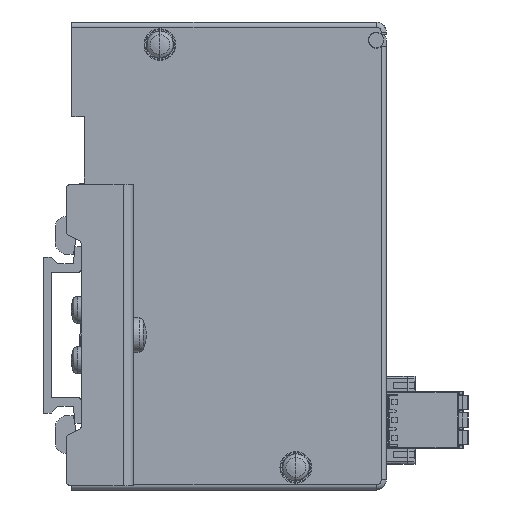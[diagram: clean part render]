
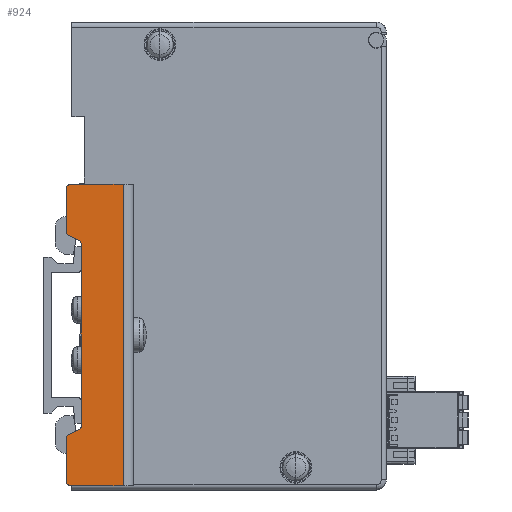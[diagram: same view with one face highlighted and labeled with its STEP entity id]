
A CAD part, left-side view. The second image highlights one B-rep face of the part: STEP entity #924.
In plain terms, the highlighted planar face has unit normal (-1, 0, 0).
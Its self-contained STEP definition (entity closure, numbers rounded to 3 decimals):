
#924=ADVANCED_FACE('',(#8789),#8788,.T.);
#8788=PLANE('',#14845);
#8789=FACE_OUTER_BOUND('',#14846,.T.);
#14842=CARTESIAN_POINT('',(-13.,-3.37,-36.));
#14843=DIRECTION('',(-1.,0.,0.));
#14844=DIRECTION('',(0.,-1.,0.));
#14845=AXIS2_PLACEMENT_3D('',#14842,#14843,#14844);
#14846=EDGE_LOOP('',(#19674,#19675,#19676,#19677,#19678,#19679,#19680,#19681,#19682,#19683,#19684,#19685,#19686,#19687));
#19674=ORIENTED_EDGE('',*,*,#22361,.F.);
#19675=ORIENTED_EDGE('',*,*,#22362,.T.);
#19676=ORIENTED_EDGE('',*,*,#22363,.T.);
#19677=ORIENTED_EDGE('',*,*,#22364,.T.);
#19678=ORIENTED_EDGE('',*,*,#22365,.F.);
#19679=ORIENTED_EDGE('',*,*,#22366,.T.);
#19680=ORIENTED_EDGE('',*,*,#22367,.T.);
#19681=ORIENTED_EDGE('',*,*,#22368,.T.);
#19682=ORIENTED_EDGE('',*,*,#22369,.T.);
#19683=ORIENTED_EDGE('',*,*,#22370,.T.);
#19684=ORIENTED_EDGE('',*,*,#22371,.T.);
#19685=ORIENTED_EDGE('',*,*,#22372,.F.);
#19686=ORIENTED_EDGE('',*,*,#22373,.T.);
#19687=ORIENTED_EDGE('',*,*,#22374,.F.);
#22361=EDGE_CURVE('',#36011,#36012,#36013,.T.);
#22362=EDGE_CURVE('',#36011,#36019,#36020,.T.);
#22363=EDGE_CURVE('',#36019,#36026,#36027,.T.);
#22364=EDGE_CURVE('',#36026,#36033,#36034,.T.);
#22365=EDGE_CURVE('',#36040,#36033,#36041,.T.);
#22366=EDGE_CURVE('',#36040,#36047,#36048,.T.);
#22367=EDGE_CURVE('',#36047,#36054,#36055,.T.);
#22368=EDGE_CURVE('',#36054,#36061,#36062,.T.);
#22369=EDGE_CURVE('',#36061,#36068,#36069,.T.);
#22370=EDGE_CURVE('',#36068,#36075,#36076,.T.);
#22371=EDGE_CURVE('',#36075,#36082,#36083,.T.);
#22372=EDGE_CURVE('',#36089,#36082,#36090,.T.);
#22373=EDGE_CURVE('',#36089,#36096,#36097,.T.);
#22374=EDGE_CURVE('',#36012,#36096,#36103,.T.);
#36011=VERTEX_POINT('',#46064);
#36012=VERTEX_POINT('',#46065);
#36013=LINE('',#46066,#46067);
#36019=VERTEX_POINT('',#46069);
#36020=CIRCLE('',#46073,1.);
#36026=VERTEX_POINT('',#46074);
#36027=LINE('',#46075,#46076);
#36033=VERTEX_POINT('',#46078);
#36034=CIRCLE('',#46082,1.);
#36040=VERTEX_POINT('',#46083);
#36041=LINE('',#46084,#46085);
#36047=VERTEX_POINT('',#46087);
#36048=LINE('',#46088,#46089);
#36054=VERTEX_POINT('',#46091);
#36055=LINE('',#46092,#46093);
#36061=VERTEX_POINT('',#46095);
#36062=CIRCLE('',#46099,1.);
#36068=VERTEX_POINT('',#46100);
#36069=LINE('',#46101,#46102);
#36075=VERTEX_POINT('',#46104);
#36076=CIRCLE('',#46108,1.);
#36082=VERTEX_POINT('',#46109);
#36083=LINE('',#46110,#46111);
#36089=VERTEX_POINT('',#46113);
#36090=CIRCLE('',#46117,1.);
#36096=VERTEX_POINT('',#46118);
#36097=LINE('',#46119,#46120);
#36103=CIRCLE('',#46125,1.);
#46064=CARTESIAN_POINT('',(-13.,-5.077,-19.73));
#46065=CARTESIAN_POINT('',(-13.,-6.923,-18.869));
#46066=CARTESIAN_POINT('',(-13.,-5.077,-19.73));
#46067=VECTOR('',#46068,2.036);
#46068=DIRECTION('',(0.,-0.906,0.423));
#46069=CARTESIAN_POINT('',(-13.,-4.5,-20.636));
#46070=CARTESIAN_POINT('',(-13.,-5.5,-20.636));
#46071=DIRECTION('',(-1.,0.,0.));
#46072=DIRECTION('',(0.,0.,1.));
#46073=AXIS2_PLACEMENT_3D('',#46070,#46071,#46072);
#46074=CARTESIAN_POINT('',(-13.,-4.5,-29.));
#46075=CARTESIAN_POINT('',(-13.,-4.5,-20.636));
#46076=VECTOR('',#46077,8.364);
#46077=DIRECTION('',(0.,0.,-1.));
#46078=CARTESIAN_POINT('',(-13.,-5.5,-30.));
#46079=CARTESIAN_POINT('',(-13.,-5.5,-29.));
#46080=DIRECTION('',(-1.,0.,0.));
#46081=DIRECTION('',(0.,0.,1.));
#46082=AXIS2_PLACEMENT_3D('',#46079,#46080,#46081);
#46083=CARTESIAN_POINT('',(-13.,-15.8,-30.));
#46084=CARTESIAN_POINT('',(-13.,-15.8,-30.));
#46085=VECTOR('',#46086,10.3);
#46086=DIRECTION('',(0.,1.,0.));
#46087=CARTESIAN_POINT('',(-13.,-15.8,30.));
#46088=CARTESIAN_POINT('',(-13.,-15.8,-30.));
#46089=VECTOR('',#46090,60.);
#46090=DIRECTION('',(0.,0.,1.));
#46091=CARTESIAN_POINT('',(-13.,-5.5,30.));
#46092=CARTESIAN_POINT('',(-13.,-15.8,30.));
#46093=VECTOR('',#46094,10.3);
#46094=DIRECTION('',(0.,1.,0.));
#46095=CARTESIAN_POINT('',(-13.,-4.5,29.));
#46096=CARTESIAN_POINT('',(-13.,-5.5,29.));
#46097=DIRECTION('',(-1.,0.,0.));
#46098=DIRECTION('',(0.,0.,1.));
#46099=AXIS2_PLACEMENT_3D('',#46096,#46097,#46098);
#46100=CARTESIAN_POINT('',(-13.,-4.5,20.636));
#46101=CARTESIAN_POINT('',(-13.,-4.5,29.));
#46102=VECTOR('',#46103,8.364);
#46103=DIRECTION('',(0.,0.,-1.));
#46104=CARTESIAN_POINT('',(-13.,-5.077,19.73));
#46105=CARTESIAN_POINT('',(-13.,-5.5,20.636));
#46106=DIRECTION('',(-1.,0.,0.));
#46107=DIRECTION('',(0.,0.,1.));
#46108=AXIS2_PLACEMENT_3D('',#46105,#46106,#46107);
#46109=CARTESIAN_POINT('',(-13.,-6.923,18.869));
#46110=CARTESIAN_POINT('',(-13.,-5.077,19.73));
#46111=VECTOR('',#46112,2.036);
#46112=DIRECTION('',(0.,-0.906,-0.423));
#46113=CARTESIAN_POINT('',(-13.,-7.5,17.963));
#46114=CARTESIAN_POINT('',(-13.,-6.5,17.963));
#46115=DIRECTION('',(-1.,0.,0.));
#46116=DIRECTION('',(0.,0.,1.));
#46117=AXIS2_PLACEMENT_3D('',#46114,#46115,#46116);
#46118=CARTESIAN_POINT('',(-13.,-7.5,-17.963));
#46119=CARTESIAN_POINT('',(-13.,-7.5,17.963));
#46120=VECTOR('',#46121,35.926);
#46121=DIRECTION('',(0.,0.,-1.));
#46122=CARTESIAN_POINT('',(-13.,-6.5,-17.963));
#46123=DIRECTION('',(-1.,0.,0.));
#46124=DIRECTION('',(0.,0.,1.));
#46125=AXIS2_PLACEMENT_3D('',#46122,#46123,#46124);
